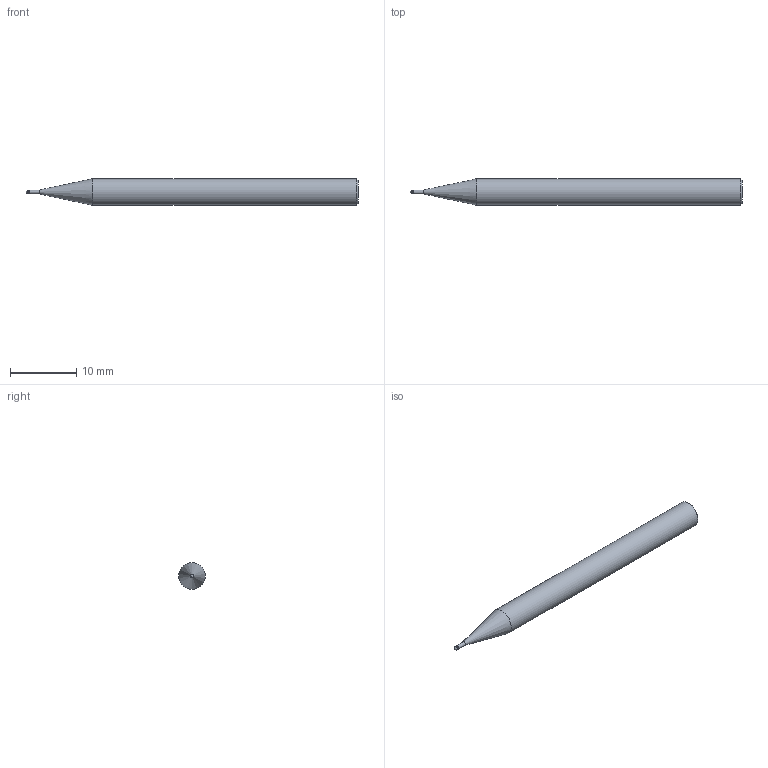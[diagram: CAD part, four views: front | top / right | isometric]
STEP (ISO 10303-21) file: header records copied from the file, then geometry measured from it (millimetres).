
FILE_DESCRIPTION(/* description */ (''),/* implementation_level */ '2;1');
FILE_NAME(/* name */ 'HGXPB2006-2-T0.4 0450.stp',/* time_stamp */ '2026-01-22T09:33:24+08:00',/* author */ (''),/* organization */ (''),/* preprocessor_version */ 'ST-DEVELOPER v16',/* originating_system */ 'SIEMENS PLM Software NX 10.0',/* authorisation */ '');
FILE_SCHEMA (('CONFIG_CONTROL_DESIGN'));
Length unit declared in the file: millimetre
Products named in the file (1): HGXPB2006-2-T0.4 0450_dxf
Bounding box: 50 x 4 x 4 mm (x, y, z)
Volume: 541.6 mm3; surface area: 575.9 mm2
Topology: 1 solids, 1 shells, 9 faces, 16 edges, 9 vertices
Faces by surface type: cylinder 3, cone 3, plane 2, bspline 1
Full cylindrical faces by diameter (mm): 0.56 x1, 0.6 x1, 4 x1
Entity records: 285 total; most frequent: CARTESIAN_POINT 54, DIRECTION 34, AXIS2_PLACEMENT_3D 17, FACE_BOUND 16, EDGE_LOOP 16, ORIENTED_EDGE 16, ADVANCED_FACE 9, VERTEX_POINT 9
